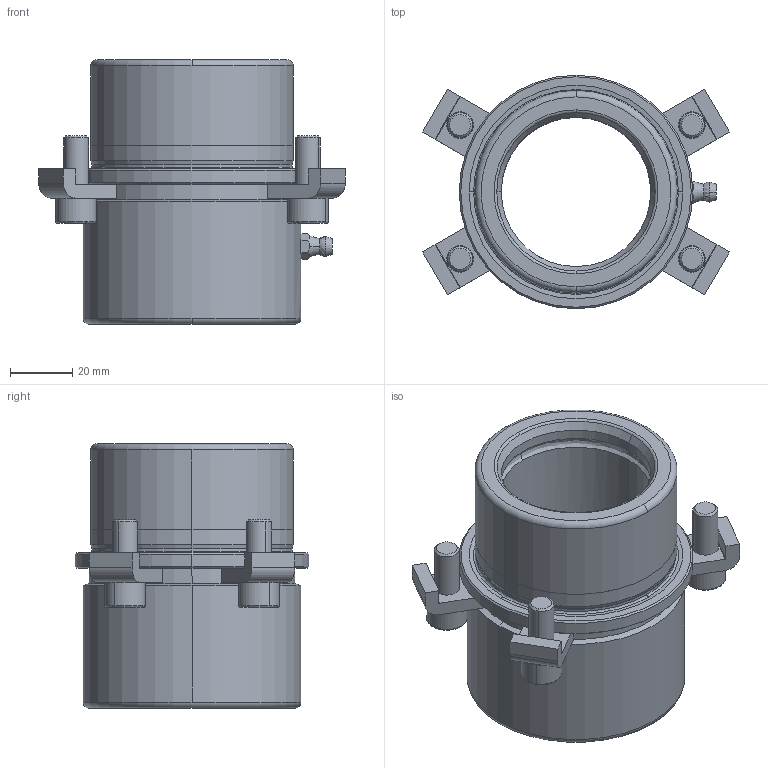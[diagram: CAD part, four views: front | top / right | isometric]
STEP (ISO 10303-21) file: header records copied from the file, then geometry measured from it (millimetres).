
FILE_DESCRIPTION((''),'2;1');
FILE_NAME('B10_048_050.stp','2008-11-06T09:02:59',(''),(''),'Mechanical Desktop 2009','Mechanical Desktop 2009',', , ');
FILE_SCHEMA(('CONFIG_CONTROL_DESIGN'));
Length unit declared in the file: millimetre
Products named in the file (2): Product; blmdl1
Assembly tree (1 placements, depth 2):
  Product
    blmdl1
Bounding box: 98.54 x 75 x 85 mm (x, y, z)
Volume: 166376.4 mm3; surface area: 45954.1 mm2
Topology: 10 solids, 10 shells, 202 faces, 505 edges, 332 vertices
Faces by surface type: plane 82, cylinder 60, cone 24, bspline 18, torus 18
Entity records: 7380 total; most frequent: CARTESIAN_POINT 2302, DIRECTION 1111, ORIENTED_EDGE 1002, EDGE_CURVE 501, AXIS2_PLACEMENT_3D 441, VERTEX_POINT 330, CIRCLE 255, VECTOR 229
